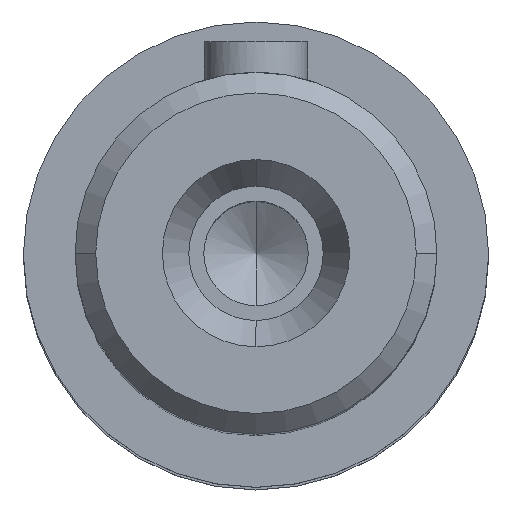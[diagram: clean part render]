
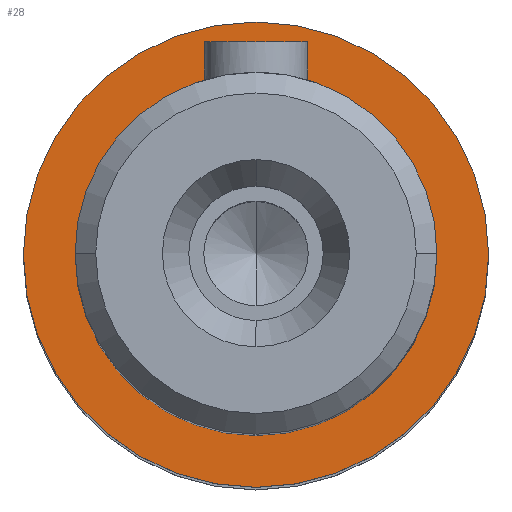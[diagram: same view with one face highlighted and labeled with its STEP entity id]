
A CAD part, top view. The second image highlights one B-rep face of the part: STEP entity #28.
In plain terms, the highlighted planar face has unit normal (0, 0, 1) as drawn and (1, 0, 0) by its records, which use the part's own axes.
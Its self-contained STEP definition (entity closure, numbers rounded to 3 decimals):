
#28=ADVANCED_FACE('',(#86,#72),#706,.T.);
#72=FACE_BOUND('',#141,.T.);
#86=FACE_OUTER_BOUND('',#140,.T.);
#140=EDGE_LOOP('',(#231,#232));
#141=EDGE_LOOP('',(#233,#234));
#231=ORIENTED_EDGE('',*,*,#458,.F.);
#232=ORIENTED_EDGE('',*,*,#401,.F.);
#233=ORIENTED_EDGE('',*,*,#448,.F.);
#234=ORIENTED_EDGE('',*,*,#391,.F.);
#391=EDGE_CURVE('',#638,#672,#531,.T.);
#401=EDGE_CURVE('',#646,#679,#537,.T.);
#448=EDGE_CURVE('',#672,#638,#560,.T.);
#458=EDGE_CURVE('',#679,#646,#566,.T.);
#531=TRIMMED_CURVE($,#580,(#1418),(#1419),.T.,.CARTESIAN.);
#537=TRIMMED_CURVE($,#586,(#1444),(#1445),.T.,.CARTESIAN.);
#560=TRIMMED_CURVE($,#609,(#1561),(#1562),.T.,.CARTESIAN.);
#566=TRIMMED_CURVE($,#615,(#1587),(#1588),.T.,.CARTESIAN.);
#580=CIRCLE('',#953,17.5);
#586=CIRCLE('',#959,22.5);
#609=CIRCLE('',#982,17.5);
#615=CIRCLE('',#988,22.5);
#638=VERTEX_POINT('',#1313);
#646=VERTEX_POINT('',#1321);
#672=VERTEX_POINT('',#1347);
#679=VERTEX_POINT('',#1354);
#706=PLANE('',#924);
#924=AXIS2_PLACEMENT_3D('',#1165,#1015,$);
#953=AXIS2_PLACEMENT_3D($,#1417,#1046,#1047);
#959=AXIS2_PLACEMENT_3D($,#1443,#1058,#1059);
#982=AXIS2_PLACEMENT_3D($,#1560,#1104,#1105);
#988=AXIS2_PLACEMENT_3D($,#1586,#1116,#1117);
#1015=DIRECTION('',(1.,0.,0.));
#1046=DIRECTION('',(1.,0.,0.));
#1047=DIRECTION('',(0.,0.,-1.));
#1058=DIRECTION('',(-1.,0.,0.));
#1059=DIRECTION('',(0.,0.,-1.));
#1104=DIRECTION('',(1.,0.,0.));
#1105=DIRECTION('',(0.,0.,1.));
#1116=DIRECTION('',(-1.,0.,0.));
#1117=DIRECTION('',(0.,0.,1.));
#1165=CARTESIAN_POINT('',(74.5,-27.06,-27.06));
#1313=CARTESIAN_POINT('',(74.5,0.,-17.5));
#1321=CARTESIAN_POINT('',(74.5,0.,-22.5));
#1347=CARTESIAN_POINT('',(74.5,0.,17.5));
#1354=CARTESIAN_POINT('',(74.5,0.,22.5));
#1417=CARTESIAN_POINT('',(74.5,0.,0.));
#1418=CARTESIAN_POINT('',(74.5,0.,-17.5));
#1419=CARTESIAN_POINT('',(74.5,0.,17.5));
#1443=CARTESIAN_POINT('',(74.5,0.,0.));
#1444=CARTESIAN_POINT('',(74.5,0.,-22.5));
#1445=CARTESIAN_POINT('',(74.5,0.,22.5));
#1560=CARTESIAN_POINT('',(74.5,0.,0.));
#1561=CARTESIAN_POINT('',(74.5,0.,17.5));
#1562=CARTESIAN_POINT('',(74.5,0.,-17.5));
#1586=CARTESIAN_POINT('',(74.5,0.,0.));
#1587=CARTESIAN_POINT('',(74.5,0.,22.5));
#1588=CARTESIAN_POINT('',(74.5,0.,-22.5));
